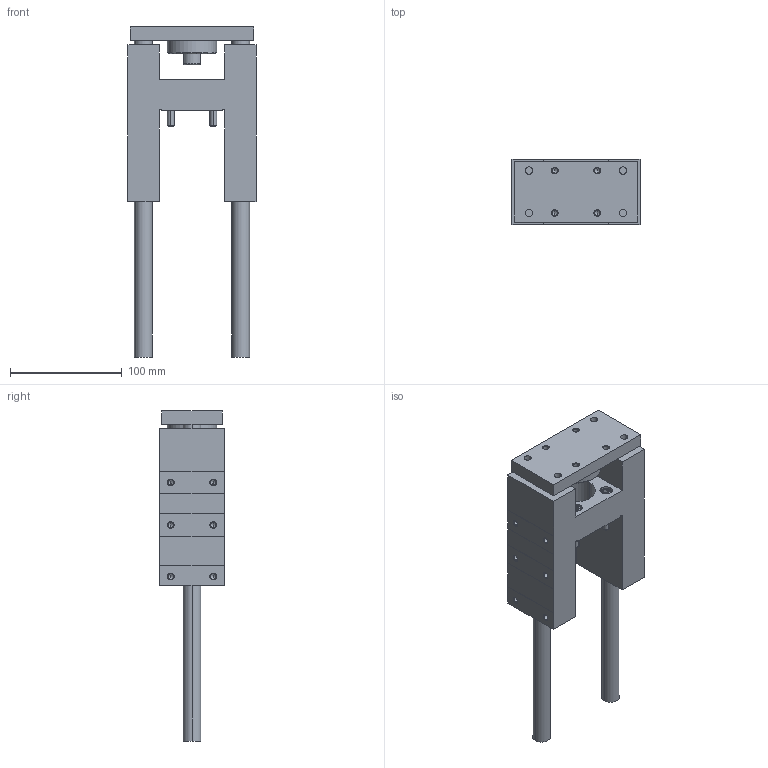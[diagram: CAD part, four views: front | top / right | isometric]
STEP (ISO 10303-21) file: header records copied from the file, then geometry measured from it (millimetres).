
FILE_DESCRIPTION (( 'STEP AP203' ), '1' );
FILE_NAME ('GB40-125.STEP', '2020-04-24T11:20:08', ( '' ), ( '' ), 'SwSTEP 2.0', 'SolidWorks 2019', '' );
FILE_SCHEMA (( 'CONFIG_CONTROL_DESIGN' ));
Length unit declared in the file: millimetre
Products named in the file (1): GB40-125
Bounding box: 115 x 58 x 295 mm (x, y, z)
Volume: 661875.5 mm3; surface area: 135039.3 mm2
Topology: 6 solids, 6 shells, 357 faces, 802 edges, 456 vertices
Faces by surface type: cone 142, plane 113, cylinder 102
Entity records: 10283 total; most frequent: CARTESIAN_POINT 2222, DIRECTION 1796, ORIENTED_EDGE 1532, EDGE_CURVE 766, AXIS2_PLACEMENT_3D 700, VERTEX_POINT 456, EDGE_LOOP 422, LINE 396
